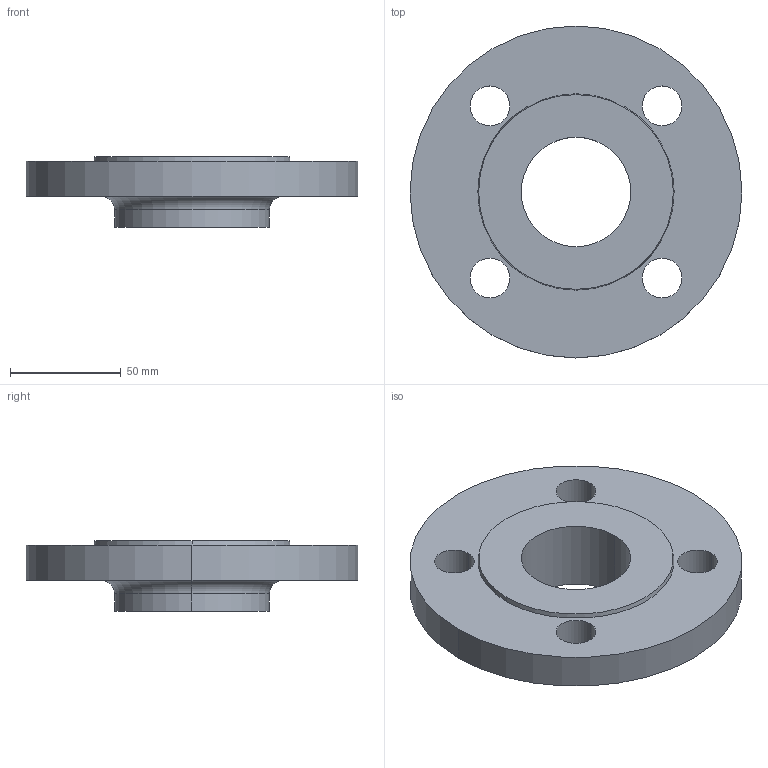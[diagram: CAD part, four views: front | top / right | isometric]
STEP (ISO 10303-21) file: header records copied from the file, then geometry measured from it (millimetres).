
FILE_DESCRIPTION (( 'STEP AP214' ), '1' );
FILE_NAME ('PN40 DN40 Type 12 - Type B Face.STEP', '2018-12-30T01:42:12', ( '' ), ( '' ), 'SwSTEP 2.0', 'SolidWorks 2019', '' );
FILE_SCHEMA (( 'AUTOMOTIVE_DESIGN' ));
Length unit declared in the file: millimetre
Products named in the file (1): PN40 DN40 Type 12 - Type B Face
Bounding box: 150 x 150 x 32 mm (x, y, z)
Volume: 272780.2 mm3; surface area: 48587.8 mm2
Topology: 1 solids, 1 shells, 22 faces, 52 edges, 34 vertices
Faces by surface type: cylinder 14, plane 4, torus 2, cone 2
Entity records: 710 total; most frequent: DIRECTION 134, CARTESIAN_POINT 109, ORIENTED_EDGE 104, AXIS2_PLACEMENT_3D 59, EDGE_CURVE 52, CIRCLE 36, EDGE_LOOP 34, VERTEX_POINT 34
